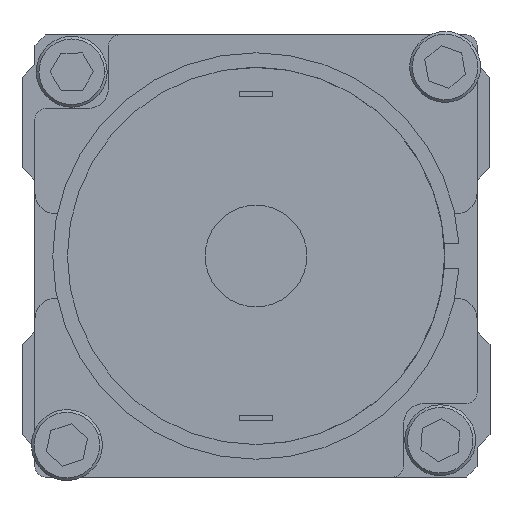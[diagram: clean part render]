
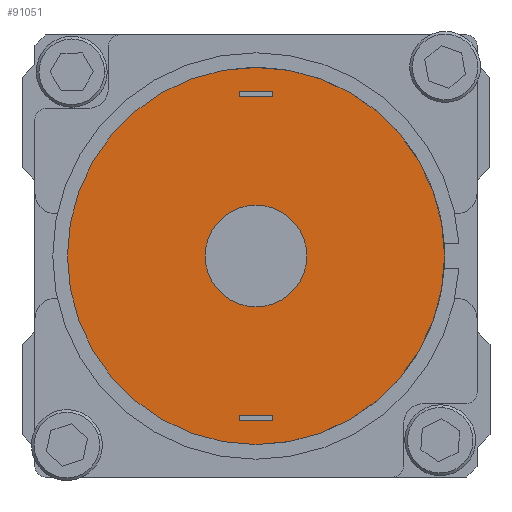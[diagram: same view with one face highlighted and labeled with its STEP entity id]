
A CAD part, left-side view. The second image highlights one B-rep face of the part: STEP entity #91051.
In plain terms, the highlighted planar face has unit normal (-1, 0, 0) as drawn and (0, 0, -1) by its records, which use the part's own axes.
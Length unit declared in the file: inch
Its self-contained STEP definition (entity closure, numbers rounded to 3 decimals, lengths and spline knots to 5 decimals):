
#646 = LINE ( 'NONE', #28461, #62616 ) ;
#2469 = CARTESIAN_POINT ( 'NONE',  ( 0.615, -0.0625, -0.28 ) ) ;
#3597 = CARTESIAN_POINT ( 'NONE',  ( -0.19, 0., -0.28 ) ) ;
#3893 = AXIS2_PLACEMENT_3D ( 'NONE', #84509, #25802, #84826 ) ;
#3963 = FACE_BOUND ( 'NONE', #29338, .T. ) ;
#4208 = AXIS2_PLACEMENT_3D ( 'NONE', #78696, #35384, #5522 ) ;
#4293 = EDGE_LOOP ( 'NONE', ( #6501, #35747, #6674, #93201 ) ) ;
#5522 = DIRECTION ( 'NONE',  ( -1., 0., 0. ) ) ;
#6501 = ORIENTED_EDGE ( 'NONE', *, *, #43370, .F. ) ;
#6674 = ORIENTED_EDGE ( 'NONE', *, *, #56165, .F. ) ;
#10178 = CIRCLE ( 'NONE', #23289, 0.705 ) ;
#12035 = CIRCLE ( 'NONE', #4208, 0.19 ) ;
#13725 = DIRECTION ( 'NONE',  ( -1., 0., 0. ) ) ;
#14166 = EDGE_CURVE ( 'NONE', #54207, #75742, #18372, .T. ) ;
#14434 = DIRECTION ( 'NONE',  ( 0., 0., -1. ) ) ;
#15015 = CIRCLE ( 'NONE', #80167, 0.19 ) ;
#15658 = EDGE_CURVE ( 'NONE', #38784, #41745, #10178, .T. ) ;
#16658 = ORIENTED_EDGE ( 'NONE', *, *, #15658, .T. ) ;
#18372 = LINE ( 'NONE', #80518, #55146 ) ;
#18891 = EDGE_CURVE ( 'NONE', #35700, #54207, #50106, .T. ) ;
#20919 = VECTOR ( 'NONE', #69174, 39.37008 ) ;
#20988 = CARTESIAN_POINT ( 'NONE',  ( -0.615, -0.0625, -0.28 ) ) ;
#22264 = VECTOR ( 'NONE', #29965, 39.37008 ) ;
#22364 = CARTESIAN_POINT ( 'NONE',  ( -0.615, 0.0625, -0.28 ) ) ;
#23289 = AXIS2_PLACEMENT_3D ( 'NONE', #61957, #77025, #91773 ) ;
#23435 = FACE_BOUND ( 'NONE', #4293, .T. ) ;
#24609 = CARTESIAN_POINT ( 'NONE',  ( -0.615, 0.0625, -0.28 ) ) ;
#24834 = CARTESIAN_POINT ( 'NONE',  ( 0.615, -0.0625, -0.28 ) ) ;
#25519 = ORIENTED_EDGE ( 'NONE', *, *, #18891, .F. ) ;
#25802 = DIRECTION ( 'NONE',  ( 0., 0., -1. ) ) ;
#25962 = VECTOR ( 'NONE', #68640, 39.37008 ) ;
#26031 = CARTESIAN_POINT ( 'NONE',  ( 0.705, 0., -0.28 ) ) ;
#28461 = CARTESIAN_POINT ( 'NONE',  ( 0.595, 0.0625, -0.28 ) ) ;
#29338 = EDGE_LOOP ( 'NONE', ( #67137, #87922 ) ) ;
#29371 = VECTOR ( 'NONE', #55674, 39.37008 ) ;
#29618 = CARTESIAN_POINT ( 'NONE',  ( 0.19, 0., -0.28 ) ) ;
#29965 = DIRECTION ( 'NONE',  ( 1., 0., 0. ) ) ;
#30994 = DIRECTION ( 'NONE',  ( -1., 0., 0. ) ) ;
#32748 = CARTESIAN_POINT ( 'NONE',  ( -0.595, 0.0625, -0.28 ) ) ;
#33223 = CARTESIAN_POINT ( 'NONE',  ( -0.615, -0.0625, -0.28 ) ) ;
#33385 = CARTESIAN_POINT ( 'NONE',  ( -0.705, 0., -0.28 ) ) ;
#34946 = EDGE_CURVE ( 'NONE', #75742, #83437, #41971, .T. ) ;
#35384 = DIRECTION ( 'NONE',  ( 0., 0., -1. ) ) ;
#35700 = VERTEX_POINT ( 'NONE', #22364 ) ;
#35747 = ORIENTED_EDGE ( 'NONE', *, *, #52608, .F. ) ;
#37329 = CARTESIAN_POINT ( 'NONE',  ( 0.615, 0.0625, -0.28 ) ) ;
#38637 = LINE ( 'NONE', #53460, #51288 ) ;
#38784 = VERTEX_POINT ( 'NONE', #26031 ) ;
#40245 = DIRECTION ( 'NONE',  ( 0., -1., 0. ) ) ;
#41745 = VERTEX_POINT ( 'NONE', #33385 ) ;
#41971 = LINE ( 'NONE', #33223, #29371 ) ;
#43160 = CARTESIAN_POINT ( 'NONE',  ( 0.595, -0.0625, -0.28 ) ) ;
#43370 = EDGE_CURVE ( 'NONE', #92555, #69654, #52857, .T. ) ;
#43674 = VECTOR ( 'NONE', #40245, 39.37008 ) ;
#48277 = EDGE_CURVE ( 'NONE', #69654, #88664, #38637, .T. ) ;
#50106 = LINE ( 'NONE', #32748, #25962 ) ;
#50292 = EDGE_CURVE ( 'NONE', #66291, #53273, #12035, .T. ) ;
#50647 = EDGE_LOOP ( 'NONE', ( #16658, #58767 ) ) ;
#51288 = VECTOR ( 'NONE', #52840, 39.37008 ) ;
#52608 = EDGE_CURVE ( 'NONE', #88269, #92555, #57968, .T. ) ;
#52840 = DIRECTION ( 'NONE',  ( -1., 0., 0. ) ) ;
#52857 = LINE ( 'NONE', #24834, #43674 ) ;
#53273 = VERTEX_POINT ( 'NONE', #29618 ) ;
#53460 = CARTESIAN_POINT ( 'NONE',  ( 0.595, -0.0625, -0.28 ) ) ;
#54207 = VERTEX_POINT ( 'NONE', #63466 ) ;
#55146 = VECTOR ( 'NONE', #87856, 39.37008 ) ;
#55674 = DIRECTION ( 'NONE',  ( -1., 0., 0. ) ) ;
#56165 = EDGE_CURVE ( 'NONE', #88664, #88269, #646, .T. ) ;
#57389 = ORIENTED_EDGE ( 'NONE', *, *, #14166, .F. ) ;
#57691 = DIRECTION ( 'NONE',  ( 0., 0., -1. ) ) ;
#57968 = LINE ( 'NONE', #37329, #22264 ) ;
#58424 = CARTESIAN_POINT ( 'NONE',  ( 0., 0., -0.28 ) ) ;
#58767 = ORIENTED_EDGE ( 'NONE', *, *, #93629, .T. ) ;
#61754 = PLANE ( 'NONE',  #3893 ) ;
#61957 = CARTESIAN_POINT ( 'NONE',  ( 0., 0., -0.28 ) ) ;
#62245 = CIRCLE ( 'NONE', #91844, 0.705 ) ;
#62514 = FACE_BOUND ( 'NONE', #90214, .T. ) ;
#62616 = VECTOR ( 'NONE', #87453, 39.37008 ) ;
#63466 = CARTESIAN_POINT ( 'NONE',  ( -0.595, 0.0625, -0.28 ) ) ;
#63585 = EDGE_CURVE ( 'NONE', #53273, #66291, #15015, .T. ) ;
#66010 = FACE_OUTER_BOUND ( 'NONE', #50647, .T. ) ;
#66291 = VERTEX_POINT ( 'NONE', #3597 ) ;
#67137 = ORIENTED_EDGE ( 'NONE', *, *, #63585, .F. ) ;
#68251 = ORIENTED_EDGE ( 'NONE', *, *, #34946, .F. ) ;
#68640 = DIRECTION ( 'NONE',  ( 1., 0., 0. ) ) ;
#69174 = DIRECTION ( 'NONE',  ( 0., 1., 0. ) ) ;
#69654 = VERTEX_POINT ( 'NONE', #2469 ) ;
#71269 = EDGE_CURVE ( 'NONE', #83437, #35700, #76060, .T. ) ;
#75742 = VERTEX_POINT ( 'NONE', #89830 ) ;
#76060 = LINE ( 'NONE', #24609, #20919 ) ;
#77025 = DIRECTION ( 'NONE',  ( 0., 0., -1. ) ) ;
#78696 = CARTESIAN_POINT ( 'NONE',  ( 0., 0., -0.28 ) ) ;
#80167 = AXIS2_PLACEMENT_3D ( 'NONE', #86530, #57691, #13725 ) ;
#80518 = CARTESIAN_POINT ( 'NONE',  ( -0.595, -0.0625, -0.28 ) ) ;
#83437 = VERTEX_POINT ( 'NONE', #20988 ) ;
#84509 = CARTESIAN_POINT ( 'NONE',  ( 0., 0., -0.28 ) ) ;
#84826 = DIRECTION ( 'NONE',  ( -1., 0., 0. ) ) ;
#86530 = CARTESIAN_POINT ( 'NONE',  ( 0., 0., -0.28 ) ) ;
#87453 = DIRECTION ( 'NONE',  ( 0., 1., 0. ) ) ;
#87856 = DIRECTION ( 'NONE',  ( 0., -1., 0. ) ) ;
#87922 = ORIENTED_EDGE ( 'NONE', *, *, #50292, .F. ) ;
#88269 = VERTEX_POINT ( 'NONE', #92342 ) ;
#88664 = VERTEX_POINT ( 'NONE', #43160 ) ;
#89830 = CARTESIAN_POINT ( 'NONE',  ( -0.595, -0.0625, -0.28 ) ) ;
#90214 = EDGE_LOOP ( 'NONE', ( #25519, #92521, #68251, #57389 ) ) ;
#91051 = ADVANCED_FACE ( 'NONE', ( #62514, #66010, #23435, #3963 ), #61754, .T. ) ;
#91545 = CARTESIAN_POINT ( 'NONE',  ( 0.615, 0.0625, -0.28 ) ) ;
#91773 = DIRECTION ( 'NONE',  ( -1., 0., 0. ) ) ;
#91844 = AXIS2_PLACEMENT_3D ( 'NONE', #58424, #14434, #30994 ) ;
#92342 = CARTESIAN_POINT ( 'NONE',  ( 0.595, 0.0625, -0.28 ) ) ;
#92521 = ORIENTED_EDGE ( 'NONE', *, *, #71269, .F. ) ;
#92555 = VERTEX_POINT ( 'NONE', #91545 ) ;
#93201 = ORIENTED_EDGE ( 'NONE', *, *, #48277, .F. ) ;
#93629 = EDGE_CURVE ( 'NONE', #41745, #38784, #62245, .T. ) ;
